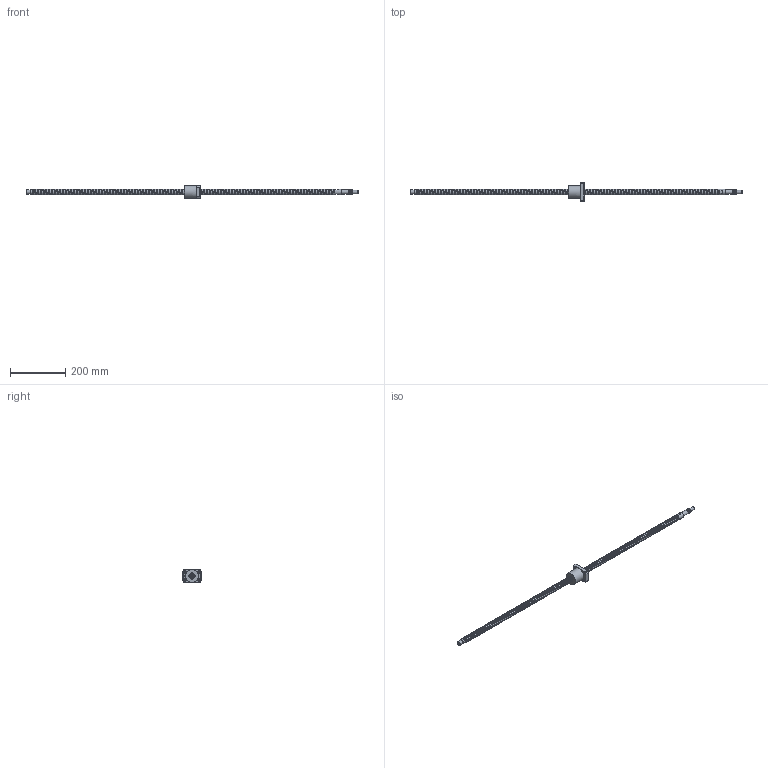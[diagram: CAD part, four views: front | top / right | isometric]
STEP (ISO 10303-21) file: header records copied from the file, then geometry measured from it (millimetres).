
FILE_DESCRIPTION (( 'STEP AP203' ), '1' );
FILE_NAME ('XSVR02010B1DGC5-1199-P1.step', '2024-06-03T06:19:53', ( '' ), ( '' ), 'SwSTEP 2.0', 'SolidWorks 2022', '' );
FILE_SCHEMA (( 'CONFIG_CONTROL_DESIGN' ));
Length unit declared in the file: millimetre
Products named in the file (1): XSVR02010B1DGC5-1199-P1
Bounding box: 1199 x 66 x 46 mm (x, y, z)
Volume: 425229.7 mm3; surface area: 99815 mm2
Topology: 2 solids, 2 shells, 269 faces, 756 edges, 499 vertices
Faces by surface type: cylinder 169, plane 40, bspline 31, cone 20, torus 9
Full cylindrical faces by diameter (mm): 4 x1, 5 x15, 6.6 x4, 11 x4, 12 x1, 14.3 x1, 15 x16, 20 x109, 22.3 x1, 46 x1
Entity records: 31511 total; most frequent: CARTESIAN_POINT 28853, ORIENTED_EDGE 594, DIRECTION 409, EDGE_CURVE 297, VERTEX_POINT 212, EDGE_LOOP 187, AXIS2_PLACEMENT_3D 179, FACE_OUTER_BOUND 150
